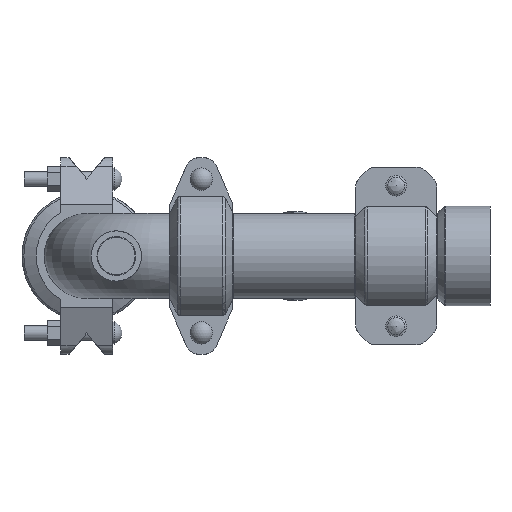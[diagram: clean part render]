
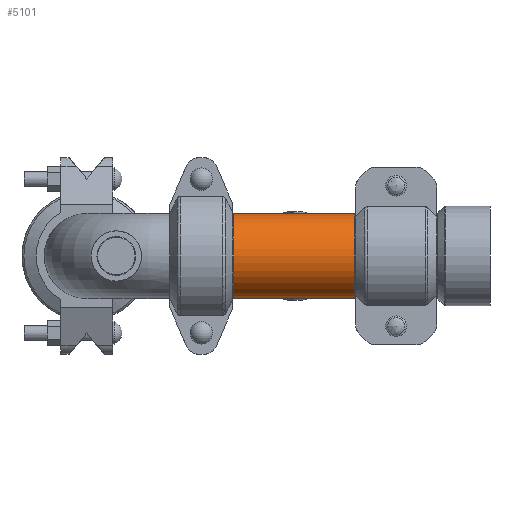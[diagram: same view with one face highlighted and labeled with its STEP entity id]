
A CAD part, front view. The second image highlights one B-rep face of the part: STEP entity #5101.
In plain terms, the highlighted cylindrical face has radius 36.513 mm (diameter 73.025 mm), a full revolution.
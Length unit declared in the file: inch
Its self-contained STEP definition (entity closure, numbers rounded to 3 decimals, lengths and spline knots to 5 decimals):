
#197=CYLINDRICAL_SURFACE('',#5672,1.4375);
#601=LINE('',#8573,#928);
#928=VECTOR('',#6716,1.4375);
#1231=FACE_OUTER_BOUND('',#1520,.T.);
#1520=EDGE_LOOP('',(#3884,#3885,#3886,#3887,#3888,#3889));
#1849=CIRCLE('',#5670,1.4375);
#1850=CIRCLE('',#5671,1.4375);
#1851=CIRCLE('',#5673,1.4375);
#1852=CIRCLE('',#5674,1.4375);
#2245=VERTEX_POINT('',#8564);
#2246=VERTEX_POINT('',#8565);
#2247=VERTEX_POINT('',#8569);
#2248=VERTEX_POINT('',#8570);
#2844=EDGE_CURVE('',#2245,#2246,#1849,.T.);
#2845=EDGE_CURVE('',#2246,#2245,#1850,.T.);
#2846=EDGE_CURVE('',#2247,#2248,#1851,.T.);
#2847=EDGE_CURVE('',#2248,#2247,#1852,.T.);
#2848=EDGE_CURVE('',#2248,#2246,#601,.T.);
#3884=ORIENTED_EDGE('',*,*,#2846,.F.);
#3885=ORIENTED_EDGE('',*,*,#2847,.F.);
#3886=ORIENTED_EDGE('',*,*,#2848,.T.);
#3887=ORIENTED_EDGE('',*,*,#2845,.T.);
#3888=ORIENTED_EDGE('',*,*,#2844,.T.);
#3889=ORIENTED_EDGE('',*,*,#2848,.F.);
#5101=ADVANCED_FACE('',(#1231),#197,.T.);
#5670=AXIS2_PLACEMENT_3D('',#8566,#6706,#6707);
#5671=AXIS2_PLACEMENT_3D('',#8567,#6708,#6709);
#5672=AXIS2_PLACEMENT_3D('',#8568,#6710,#6711);
#5673=AXIS2_PLACEMENT_3D('',#8571,#6712,#6713);
#5674=AXIS2_PLACEMENT_3D('',#8572,#6714,#6715);
#6706=DIRECTION('center_axis',(1.,0.,0.));
#6707=DIRECTION('ref_axis',(0.,0.,-1.));
#6708=DIRECTION('center_axis',(1.,0.,0.));
#6709=DIRECTION('ref_axis',(0.,0.,-1.));
#6710=DIRECTION('center_axis',(1.,0.,0.));
#6711=DIRECTION('ref_axis',(0.,1.,0.));
#6712=DIRECTION('center_axis',(1.,0.,0.));
#6713=DIRECTION('ref_axis',(0.,0.,-1.));
#6714=DIRECTION('center_axis',(1.,0.,0.));
#6715=DIRECTION('ref_axis',(0.,0.,-1.));
#6716=DIRECTION('',(-1.,0.,0.));
#8564=CARTESIAN_POINT('',(-2.0485,1.4375,0.));
#8565=CARTESIAN_POINT('',(-2.0485,-1.4375,0.));
#8566=CARTESIAN_POINT('Origin',(-2.0485,0.,0.));
#8567=CARTESIAN_POINT('Origin',(-2.0485,0.,0.));
#8568=CARTESIAN_POINT('Origin',(0.,0.,0.));
#8569=CARTESIAN_POINT('',(2.0485,1.4375,0.));
#8570=CARTESIAN_POINT('',(2.0485,-1.4375,0.));
#8571=CARTESIAN_POINT('Origin',(2.0485,0.,0.));
#8572=CARTESIAN_POINT('Origin',(2.0485,0.,0.));
#8573=CARTESIAN_POINT('',(0.,-1.4375,0.));
